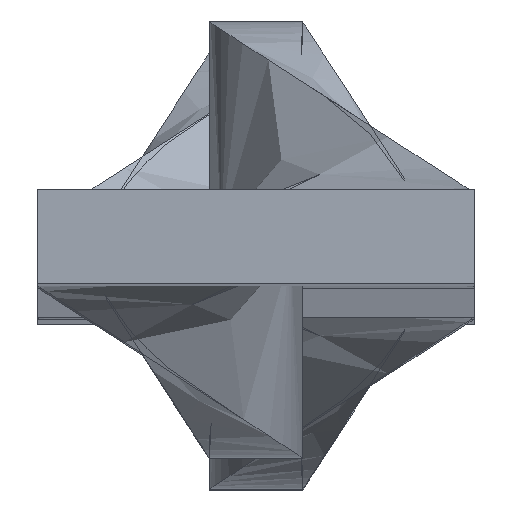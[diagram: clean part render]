
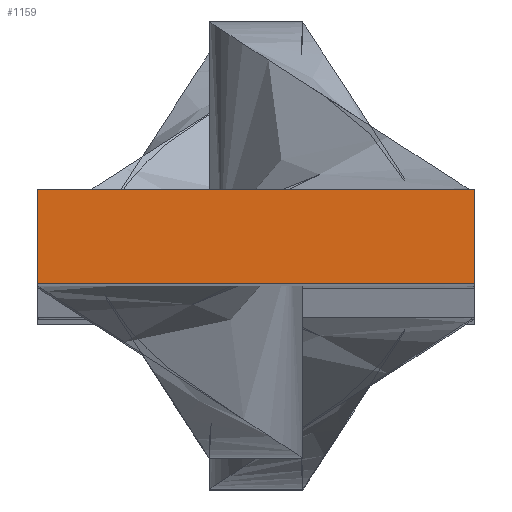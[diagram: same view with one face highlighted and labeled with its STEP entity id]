
A CAD part, top view. The second image highlights one B-rep face of the part: STEP entity #1159.
In plain terms, the highlighted planar face has unit normal (0, 0, 1).
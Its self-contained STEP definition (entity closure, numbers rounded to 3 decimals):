
#12 = LINE ( 'NONE', #95, #572 ) ;
#61 = CARTESIAN_POINT ( 'NONE',  ( 7., 1.5, 758.5 ) ) ;
#78 = CARTESIAN_POINT ( 'NONE',  ( 7., 1.5, 758.5 ) ) ;
#88 = CARTESIAN_POINT ( 'NONE',  ( -7., 1.5, 758.5 ) ) ;
#95 = CARTESIAN_POINT ( 'NONE',  ( -7., 1.5, 758.5 ) ) ;
#189 = DIRECTION ( 'NONE',  ( -1., 0., 0. ) ) ;
#307 = DIRECTION ( 'NONE',  ( 0., -1., 0. ) ) ;
#330 = VECTOR ( 'NONE', #307, 1000. ) ;
#349 = VERTEX_POINT ( 'NONE', #78 ) ;
#364 = CARTESIAN_POINT ( 'NONE',  ( -7., -1.5, 758.5 ) ) ;
#408 = EDGE_CURVE ( 'NONE', #815, #1326, #746, .T. ) ;
#446 = DIRECTION ( 'NONE',  ( 0., 1., 0. ) ) ;
#460 = VECTOR ( 'NONE', #189, 1000. ) ;
#466 = CARTESIAN_POINT ( 'NONE',  ( 7., -1.5, 758.5 ) ) ;
#504 = VERTEX_POINT ( 'NONE', #88 ) ;
#538 = DIRECTION ( 'NONE',  ( 1., 0., 0. ) ) ;
#562 = FACE_OUTER_BOUND ( 'NONE', #759, .T. ) ;
#572 = VECTOR ( 'NONE', #538, 1000. ) ;
#574 = VECTOR ( 'NONE', #446, 1000. ) ;
#639 = DIRECTION ( 'NONE',  ( -1., 0., 0. ) ) ;
#694 = PLANE ( 'NONE',  #1198 ) ;
#720 = EDGE_CURVE ( 'NONE', #1326, #504, #899, .T. ) ;
#746 = LINE ( 'NONE', #466, #460 ) ;
#749 = ORIENTED_EDGE ( 'NONE', *, *, #1231, .F. ) ;
#759 = EDGE_LOOP ( 'NONE', ( #1368, #1302, #749, #977 ) ) ;
#815 = VERTEX_POINT ( 'NONE', #1340 ) ;
#899 = LINE ( 'NONE', #364, #574 ) ;
#929 = DIRECTION ( 'NONE',  ( 0., 0., -1. ) ) ;
#965 = CARTESIAN_POINT ( 'NONE',  ( -7., -1.5, 758.5 ) ) ;
#977 = ORIENTED_EDGE ( 'NONE', *, *, #1252, .F. ) ;
#1159 = ADVANCED_FACE ( 'NONE', ( #562 ), #694, .F. ) ;
#1162 = LINE ( 'NONE', #61, #330 ) ;
#1198 = AXIS2_PLACEMENT_3D ( 'NONE', #1376, #929, #639 ) ;
#1231 = EDGE_CURVE ( 'NONE', #349, #815, #1162, .T. ) ;
#1252 = EDGE_CURVE ( 'NONE', #504, #349, #12, .T. ) ;
#1302 = ORIENTED_EDGE ( 'NONE', *, *, #408, .F. ) ;
#1326 = VERTEX_POINT ( 'NONE', #965 ) ;
#1340 = CARTESIAN_POINT ( 'NONE',  ( 7., -1.5, 758.5 ) ) ;
#1368 = ORIENTED_EDGE ( 'NONE', *, *, #720, .F. ) ;
#1376 = CARTESIAN_POINT ( 'NONE',  ( 0., 0., 758.5 ) ) ;
